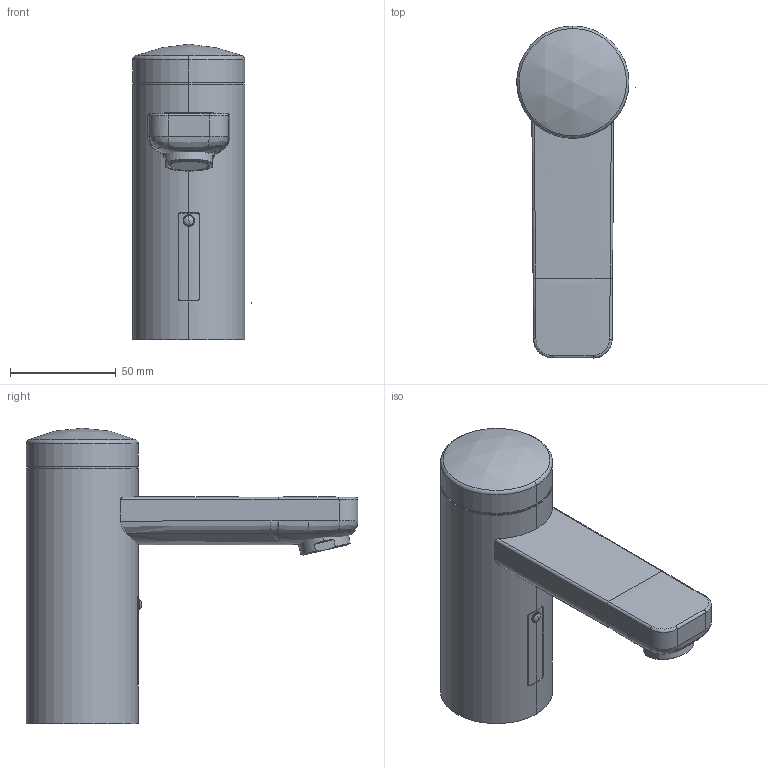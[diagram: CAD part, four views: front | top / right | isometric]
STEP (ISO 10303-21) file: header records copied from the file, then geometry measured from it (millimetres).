
FILE_DESCRIPTION((''),'2;1');
FILE_NAME('12_696_151_000_ASM','2026-07-13T12:20:37',('LF994'),(''),'CREO PARAMETRIC BY PTC INC, 2024133','CREO PARAMETRIC BY PTC INC, 2024133','');
FILE_SCHEMA(('CONFIG_CONTROL_DESIGN'));
Length unit declared in the file: millimetre
Products named in the file (10): 00388_A_1; 00628_A_1; 01068_70_002_554_A_ASM_1_ASM; SCHNITT-LINEAR_AUSTRAGEN4-102_1; LINEAR_AUSTRAGEN1_1; SCHNITT-LINEAR_AUSTRAGEN4-105_1; SCHNITT-LINEAR_AUSTRAGEN4-106_1; DOCUMENT_A_ASM_1_ASM; KWC_IQUA_200529_DESIGN_STAND_AS_ASM; 12_696_151_000_ASM
Assembly tree (9 placements, depth 5):
  12_696_151_000_ASM
    KWC_IQUA_200529_DESIGN_STAND_AS_ASM
      DOCUMENT_A_ASM_1_ASM
        00388_A_1
        01068_70_002_554_A_ASM_1_ASM
          00628_A_1
        SCHNITT-LINEAR_AUSTRAGEN4-102_1
        LINEAR_AUSTRAGEN1_1
        SCHNITT-LINEAR_AUSTRAGEN4-105_1
        SCHNITT-LINEAR_AUSTRAGEN4-106_1
Bounding box: 56.01 x 156.67 x 139.5 mm (x, y, z)
Volume: 372825.8 mm3; surface area: 50307.6 mm2
Topology: 6 solids, 8 shells, 125 faces, 341 edges, 236 vertices
Faces by surface type: cylinder 45, plane 34, bspline 28, torus 9, cone 6, sphere 3
Entity records: 6602 total; most frequent: CARTESIAN_POINT 3296, ORIENTED_EDGE 673, DIRECTION 641, EDGE_CURVE 339, AXIS2_PLACEMENT_3D 274, VERTEX_POINT 236, CIRCLE 149, EDGE_LOOP 135
